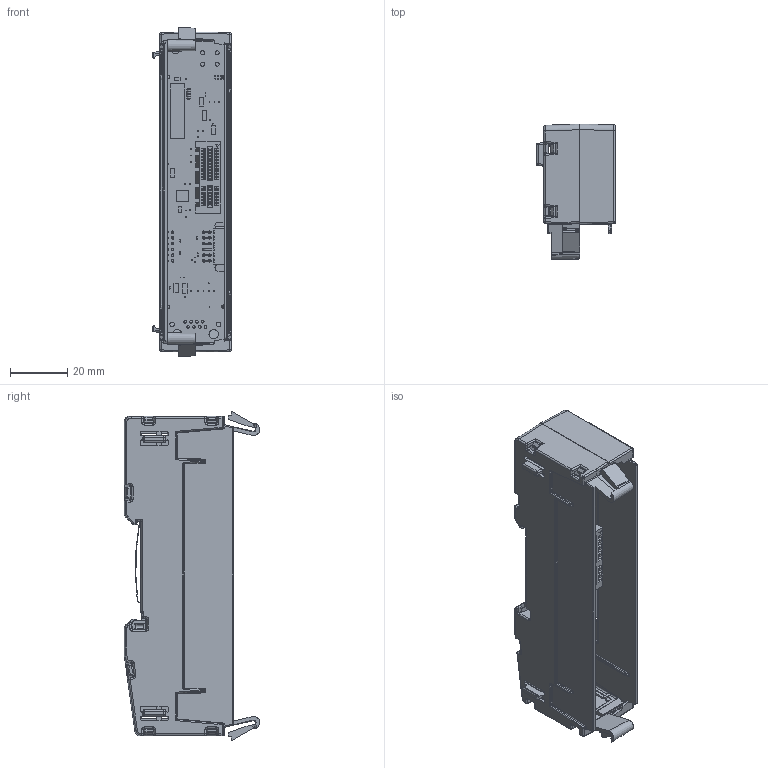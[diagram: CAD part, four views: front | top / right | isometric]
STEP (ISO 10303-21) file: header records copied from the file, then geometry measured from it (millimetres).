
FILE_DESCRIPTION(/* description */ (''),/* implementation_level */ '2;1');
FILE_NAME(/* name */ 'C:\Users\Public\Documents\Autodesk\Inventor 2023\BB61A.stp',/* time_stamp */ '2024-11-11T20:11:48+01:00',/* author */ ('shoma'),/* organization */ (''),/* preprocessor_version */ 'ST-DEVELOPER v19',/* originating_system */ 'Autodesk Inventor 2023',/* authorisation */ '');
FILE_SCHEMA (('AUTOMOTIVE_DESIGN { 1 0 10303 214 3 1 1 }'));
Products named in the file (1): BB61A
Bounding box: 27.4 x 47.2 x 114.57 mm (x, y, z)
Volume: 23509.3 mm3; surface area: 35978.4 mm2
Topology: 7 solids, 7 shells, 4259 faces, 11970 edges, 7534 vertices
Faces by surface type: plane 2397, cylinder 1390, bspline 292, sphere 140, torus 24, cone 16
Full cylindrical faces by diameter (mm): 0.3 x36, 0.7 x36, 0.8 x6, 0.85 x24, 0.9 x8, 1.29 x1, 1.4 x4, 1.6 x2, 1.981 x1, 2.35 x2, 3 x1, 3.25 x2
Entity records: 151791 total; most frequent: CARTESIAN_POINT 36805, ORIENTED_EDGE 23692, DIRECTION 22512, EDGE_CURVE 11846, LINE 8260, VECTOR 8260, VERTEX_POINT 7534, AXIS2_PLACEMENT_3D 7126
